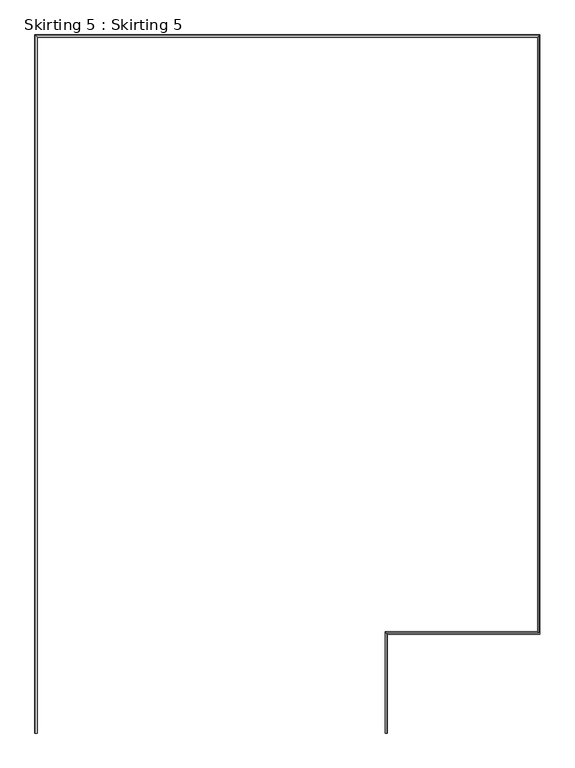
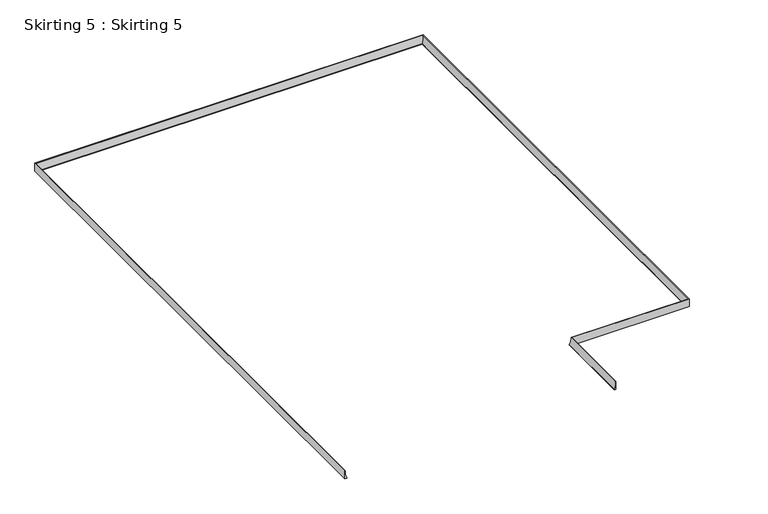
"""IFC4 building model written with IfcOpenShell, lengths in millimetres: proxy geometry, Skirting 5 : Skirting 5."""

from ifc_helpers import new_model, si_unit, frame, origin, place, context, project, spatial, polyline, circle_curve, ellipse_curve, source, transform, mapped, element, save
from ifc_brep_helpers import plane_surface, revolved_surface, advanced_brep


def skirting_5_skirting_5_09078047(model_context):
    return source(origin(), model_context, "Body", "AdvancedBrep", [
        advanced_brep(
        [(19608.6241155, 1151.4273532, 100.0), (19608.6241155, 1151.4273532, 0.0), (19628.6241155, 1151.4273532, 0.0), (19628.6241155, 1151.4273532, 5.0), (19613.6241155, 1151.4273532, 100.0), (19608.6241155, 7601.4276279, 100.0), (19608.6241155, 7601.4276279, 0.0), (24273.6241002, 7601.4276279, 0.0), (24273.6241002, 2066.7284231, 0.0), (22863.0918683, 2066.7284231, 0.0), (22863.0918683, 1151.4273532, 0.0), (22843.0918683, 1151.4273532, 0.0), (22843.0918683, 2086.7284231, 0.0), (24253.6241002, 2086.7284231, 0.0), (24253.6241002, 7581.4276279, 0.0), (19628.6241155, 7581.4276279, 0.0), (19628.6241155, 7581.4276279, 5.0), (19613.6241155, 7596.4276279, 100.0), (24268.6241002, 7596.4276279, 100.0), (24268.6241002, 2071.7284231, 100.0), (22858.0918683, 2071.7284231, 100.0), (22858.0918683, 1151.4273532, 100.0), (22863.0918683, 1151.4273532, 100.0), (22863.0918683, 2066.7284231, 100.0), (24273.6241002, 2066.7284231, 100.0), (24273.6241002, 7601.4276279, 100.0), (24253.6241002, 7581.4276279, 5.0), (24253.6241002, 2086.7284231, 5.0), (22843.0918683, 2086.7284231, 5.0), (22843.0918683, 1151.4273532, 5.0)],
        [
            (0, 1),
            (1, 2),
            (2, 3),
            (3, 4, circle_curve(frame((19859.6805012, 1151.4273532, 90.1667977), z_axis=(0.0, 1.0, 0.0), x_axis=(1.0, 0.0, 0.0)), 246.2527905)),
            (4, 0),
            (0, 5),
            (5, 6),
            (6, 1),
            (6, 7),
            (7, 8),
            (8, 9),
            (9, 10),
            (10, 11),
            (11, 12),
            (12, 13),
            (13, 14),
            (14, 15),
            (15, 2),
            (15, 16),
            (16, 3),
            (16, 17, ellipse_curve(frame((19859.6805012, 7350.3712421, 90.1667977), z_axis=(0.7071067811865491, 0.7071067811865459, 0.0), x_axis=(-0.707106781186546, 0.7071067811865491, 0.0)), 348.2540361, 246.2527905)),
            (17, 4),
            (17, 18),
            (18, 19),
            (19, 20),
            (20, 21),
            (21, 22),
            (22, 23),
            (23, 24),
            (24, 25),
            (25, 5),
            (25, 7),
            (14, 26),
            (26, 16),
            (26, 18, ellipse_curve(frame((24022.5677145, 7350.3712421, 90.1667977), z_axis=(0.7071067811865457, -0.7071067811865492, 0.0), x_axis=(0.7071067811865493, 0.7071067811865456, 0.0)), 348.2540361, 246.2527905)),
            (24, 8),
            (13, 27),
            (27, 26),
            (27, 19, ellipse_curve(frame((24022.5677145, 2317.7848088, 90.1667977), z_axis=(-0.7071067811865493, -0.7071067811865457, 0.0), x_axis=(0.7071067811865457, -0.7071067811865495, 0.0)), 348.2540361, 246.2527905)),
            (23, 9),
            (12, 28),
            (28, 27),
            (28, 20, ellipse_curve(frame((22612.0354825, 2317.7848088, 90.1667977), z_axis=(-0.7071067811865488, -0.7071067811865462, 0.0), x_axis=(-0.7071067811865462, 0.7071067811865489, 0.0)), 348.2540361, 246.2527905)),
            (21, 29, circle_curve(frame((22612.0354825, 1151.4273532, 90.1667977), z_axis=(0.0, 1.0, 0.0), x_axis=(-1.0, 0.0, 0.0)), 246.2527905)),
            (29, 11),
            (10, 22),
            (29, 28),
        ],
        [
            plane_surface(frame((19608.6241155, 1151.4273532, 0.0), z_axis=(0.0, -1.0, 0.0), x_axis=(0.0, 0.0, 1.0))),
            plane_surface(frame((19608.6241155, 1151.4273532, 100.0), z_axis=(-1.0, 0.0, 0.0), x_axis=(0.0, 1.0, 0.0))),
            plane_surface(frame((19608.6241155, 1151.4273532, 0.0), z_axis=(0.0, 0.0, -1.0), x_axis=(0.0, 1.0, 0.0))),
            plane_surface(frame((19628.6241155, 1151.4273532, 0.0), z_axis=(1.0, 0.0, 0.0), x_axis=(0.0, 1.0, 0.0))),
            revolved_surface(polyline([(20105.9332917, 7596.624032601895, 90.1667977), (20105.9332917, 1151.4273532, 90.1667977)]), (19859.6805012, 1151.4273532, 90.1667977), (0.0, 1.0, 0.0)),
            plane_surface(frame((19613.6241155, 1151.4273532, 100.0), z_axis=(0.0, 0.0, 1.0), x_axis=(0.0, 1.0, 0.0))),
            plane_surface(frame((19608.6241155, 7601.4276279, 100.0), z_axis=(0.0, 1.0, 0.0), x_axis=(1.0, 0.0, 0.0))),
            plane_surface(frame((19628.6241155, 7581.4276279, 0.0), z_axis=(0.0, -1.0, 0.0), x_axis=(1.0, 0.0, 0.0))),
            revolved_surface(polyline([(24268.820505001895, 7104.1184516, 90.1667977), (19613.427710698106, 7104.1184516, 90.1667977)]), (19608.6241155, 7350.3712421, 90.1667977), (1.0, 0.0, 0.0)),
            plane_surface(frame((24273.6241002, 7601.4276279, 100.0), z_axis=(1.0, 0.0, 0.0), x_axis=(0.0, -1.0, 0.0))),
            plane_surface(frame((24253.6241002, 7581.4276279, 0.0), z_axis=(-1.0, 0.0, 0.0), x_axis=(0.0, -1.0, 0.0))),
            revolved_surface(polyline([(23776.314924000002, 2071.532018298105, 90.1667977), (23776.314924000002, 7596.624032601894, 90.1667977)]), (24022.5677145, 7601.4276279, 90.1667977), (0.0, -1.0, 0.0)),
            plane_surface(frame((24273.6241002, 2066.7284231, 100.0), z_axis=(0.0, -1.0, 0.0), x_axis=(-1.0, 0.0, 0.0))),
            plane_surface(frame((24253.6241002, 2086.7284231, 0.0), z_axis=(0.0, 1.0, 0.0), x_axis=(-1.0, 0.0, 0.0))),
            revolved_surface(polyline([(22365.782691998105, 2564.0375993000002, 90.1667977), (24268.820505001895, 2564.0375993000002, 90.1667977)]), (24273.6241002, 2317.7848088, 90.1667977), (-1.0, 0.0, 0.0)),
            plane_surface(frame((22863.0918683, 1151.4273532, 0.0), z_axis=(0.0, -1.0, 0.0), x_axis=(0.0, 0.0, 1.0))),
            plane_surface(frame((22863.0918683, 2066.7284231, 100.0), z_axis=(1.0, 0.0, 0.0), x_axis=(0.0, -1.0, 0.0))),
            plane_surface(frame((22843.0918683, 2086.7284231, 0.0), z_axis=(-1.0, 0.0, 0.0), x_axis=(0.0, -1.0, 0.0))),
            revolved_surface(polyline([(22365.782692, 1151.4273532, 90.1667977), (22365.782692, 2564.037599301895, 90.1667977)]), (22612.0354825, 2066.7284231, 90.1667977), (0.0, -1.0, 0.0)),
        ],
        [
            (0, [[1, 2, 3, 4, 5]]),
            (1, [[-1, 6, 7, 8]]),
            (2, [[-2, -8, 9, 10, 11, 12, 13, 14, 15, 16, 17, 18]]),
            (3, [[-3, -18, 19, 20]]),
            (4, [[-4, -20, 21, 22]]),
            (5, [[-5, -22, 23, 24, 25, 26, 27, 28, 29, 30, 31, -6]]),
            (6, [[-7, -31, 32, -9]]),
            (7, [[-19, -17, 33, 34]]),
            (8, [[-21, -34, 35, -23]]),
            (9, [[-32, -30, 36, -10]]),
            (10, [[-33, -16, 37, 38]]),
            (11, [[-35, -38, 39, -24]]),
            (12, [[-36, -29, 40, -11]]),
            (13, [[-37, -15, 41, 42]]),
            (14, [[-39, -42, 43, -25]]),
            (15, [[-27, 44, 45, -13, 46]]),
            (16, [[-40, -28, -46, -12]]),
            (17, [[-41, -14, -45, 47]]),
            (18, [[-43, -47, -44, -26]]),
        ],
    ),
    ])


if __name__ == "__main__":
    model = new_model("IFC4")
    model_context = context("Model", 3, world=origin())
    ifc_project = project(units=[si_unit("LENGTHUNIT", "METRE", prefix="MILLI")], contexts=[model_context])
    site = spatial("IfcSite", under=ifc_project)
    building = spatial("IfcBuilding", under=site)
    placement = place(None, origin())
    skirting_5_skirting_5_shape = skirting_5_skirting_5_09078047(model_context)
    element("IfcBuildingElementProxy", 1, Name="Skirting 5 : Skirting 5", ObjectType="Skirting 5 : Skirting 5", at=placement, inside=building, context=model_context, shape_type="MappedRepresentation", body=[
        mapped(skirting_5_skirting_5_shape, transform((0.0, 0.0, 0.0), x_axis=(1.0, 0.0, 0.0), y_axis=(0.0, 1.0, 0.0), z_axis=(0.0, 0.0, 1.0))),
    ])
    save(model, "model.ifc")
